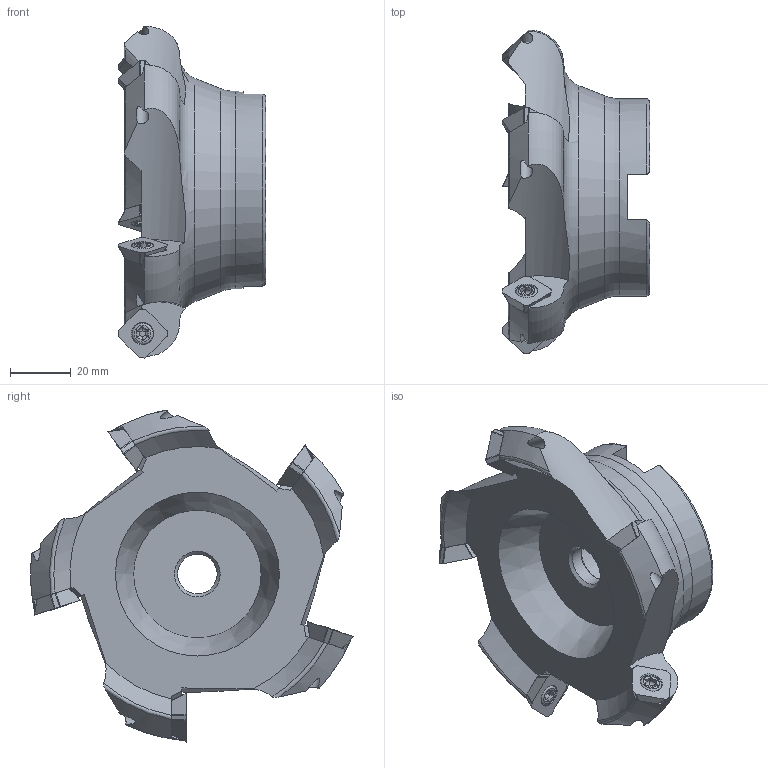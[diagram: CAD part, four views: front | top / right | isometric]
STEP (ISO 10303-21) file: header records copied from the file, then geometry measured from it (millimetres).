
FILE_DESCRIPTION(/* description */ (''),/* implementation_level */ '2;1');
FILE_NAME(/* name */ 'Z:\Проектный отдел\Арина\Режущие инструменты\Торцевые\KM12-100-32-5T\KM12-100-32-5T.stp',/* time_stamp */ '2023-10-18T10:26:51+03:00',/* author */ ('Рекина Арина'),/* organization */ (''),/* preprocessor_version */ 'ST-DEVELOPER v18',/* originating_system */ 'Autodesk Inventor 2020',/* authorisation */ '');
FILE_SCHEMA (('AUTOMOTIVE_DESIGN { 1 0 10303 214 3 1 1 }'));
Length unit declared in the file: millimetre
Products named in the file (4): KM12-100-32-5T; Деталь1; SC; болт
Assembly tree (11 placements, depth 2):
  KM12-100-32-5T
    Деталь1
    SC  x5
    болт  x5
Bounding box: 48.64 x 106.45 x 109.35 mm (x, y, z)
Volume: 144582.4 mm3; surface area: 31589.8 mm2
Topology: 11 solids, 11 shells, 346 faces, 931 edges, 578 vertices
Faces by surface type: cylinder 133, plane 105, torus 49, bspline 30, cone 29
Full cylindrical faces by diameter (mm): 4.2 x5, 5 x5, 5.5 x10, 13 x1, 32 x1, 65 x1
Entity records: 6016 total; most frequent: CARTESIAN_POINT 2118, ORIENTED_EDGE 810, DIRECTION 797, EDGE_CURVE 405, AXIS2_PLACEMENT_3D 338, VERTEX_POINT 266, EDGE_LOOP 153, CIRCLE 147
